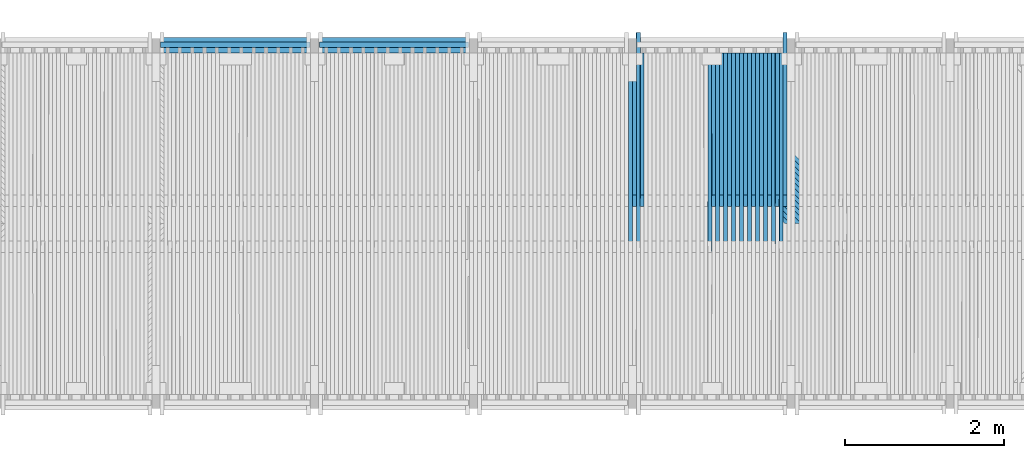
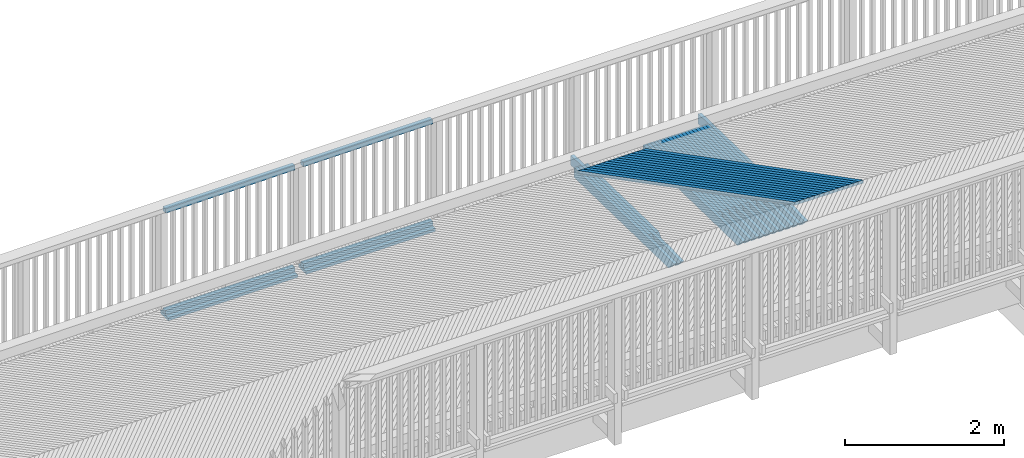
# One storey, part 35 of 52: 44 beams.
"""IFC2X3 building model written with IfcOpenShell, lengths in millimetres."""

from ifc_helpers import new_model, si_unit, frame, origin_with_axes, place, context, subcontext, project, spatial, faceted_brep, material, type_object, element, save


model = new_model("IFC2X3")

# Units and contexts
model_context = context("Model", 3, precision=1e-05, world=origin_with_axes())
body_context = subcontext(model_context, "Body", "Model", "MODEL_VIEW")
ifc_project = project(units=[si_unit("LENGTHUNIT", "METRE", prefix="MILLI"), si_unit("AREAUNIT", "SQUARE_METRE"), si_unit("VOLUMEUNIT", "CUBIC_METRE"), si_unit("MASSUNIT", "GRAM", prefix="KILO"), si_unit("TIMEUNIT", "SECOND"), si_unit("PLANEANGLEUNIT", "RADIAN"), si_unit("SOLIDANGLEUNIT", "STERADIAN"), si_unit("THERMODYNAMICTEMPERATUREUNIT", "DEGREE_CELSIUS"), si_unit("LUMINOUSINTENSITYUNIT", "LUMEN")], contexts=[model_context])

# Site, building, storey
site_placement = place(None, origin_with_axes())
site = spatial("IfcSite", under=ifc_project, at=site_placement, Name="Undefined", CompositionType="ELEMENT")
building_placement = place(site_placement, origin_with_axes())
building = spatial("IfcBuilding", under=site, at=building_placement, Name="Undefined", CompositionType="ELEMENT")
storey_placement = place(building_placement, origin_with_axes())
storey = spatial("IfcBuildingStorey", under=building, at=storey_placement, Name="Undefined", CompositionType="ELEMENT", Elevation=0.0)

# Beams
ifc_material = material(Name="TIMBER/Timber_Undefined")
beam_type_1 = type_object("IfcBeamType", Name="70*70", PredefinedType="NOTDEFINED")
beam_1_placement = place(storey_placement, frame((6060.06112513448, 4619.98998541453, 2964.99442729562), z_axis=(0.0, 1.0, 0.0), x_axis=(0.999998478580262, 0.0, 0.0017443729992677)))
element("IfcBeam", 1, at=beam_1_placement, inside=storey, type_object=beam_type_1, material=ifc_material, Name="BEAM", ObjectType="70*70", context=body_context, shape_type="Brep", body=[
    faceted_brep([(-3.63797880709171e-12, 35.0000000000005, -35.0), (-3.63797880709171e-12, 35.0000000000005, 35.0), (1880.00289069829, 35.0, 35.0), (1880.00289069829, 35.0, -35.0), (-3.63797880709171e-12, -34.9999999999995, 35.0), (1880.00289069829, -35.0000000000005, 35.0), (-3.63797880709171e-12, -34.9999999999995, -35.0), (1880.00289069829, -35.0000000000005, -35.0)], [[[0, 1, 2, 3]], [[1, 4, 5, 2]], [[4, 6, 7, 5]], [[6, 0, 3, 7]], [[5, 7, 3, 2]], [[6, 4, 1, 0]]]),
])
beam_2_placement = place(storey_placement, frame((4060.18309001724, 4619.99006849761, 2952.37669081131), z_axis=(0.0, 1.0, 0.0), x_axis=(0.999986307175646, 0.0, 0.00523311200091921)))
element("IfcBeam", 2, at=beam_2_placement, inside=storey, type_object=beam_type_1, material=ifc_material, Name="BEAM", ObjectType="70*70", context=body_context, shape_type="Brep", body=[
    faceted_brep([(-3.63797880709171e-12, 35.0000000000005, -35.0), (-3.63797880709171e-12, 35.0000000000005, 35.0), (1880.02601672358, 34.9999999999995, 35.0), (1880.02601672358, 34.9999999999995, -35.0), (-3.63797880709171e-12, -34.9999999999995, 35.0), (1880.02601672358, -35.0000000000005, 35.0), (-3.63797880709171e-12, -34.9999999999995, -35.0), (1880.02601672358, -35.0000000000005, -35.0)], [[[0, 1, 2, 3]], [[1, 4, 5, 2]], [[4, 6, 7, 5]], [[6, 0, 3, 7]], [[5, 7, 3, 2]], [[6, 4, 1, 0]]]),
])
beam_3_placement = place(storey_placement, frame((6060.06112513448, 4619.98998541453, 4524.99442729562), z_axis=(0.0, 1.0, 0.0), x_axis=(0.999998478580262, 0.0, 0.0017443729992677)))
element("IfcBeam", 3, at=beam_3_placement, inside=storey, type_object=beam_type_1, material=ifc_material, Name="BEAM", ObjectType="70*70", context=body_context, shape_type="Brep", body=[
    faceted_brep([(-3.63797880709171e-12, 35.0000000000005, -35.0), (-3.63797880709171e-12, 35.0000000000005, 35.0), (1880.00289069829, 35.0, 35.0), (1880.00289069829, 35.0, -35.0), (-3.63797880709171e-12, -34.9999999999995, 35.0), (1880.00289069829, -35.0000000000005, 35.0), (-3.63797880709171e-12, -34.9999999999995, -35.0), (1880.00289069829, -35.0000000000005, -35.0)], [[[0, 1, 2, 3]], [[1, 4, 5, 2]], [[4, 6, 7, 5]], [[6, 0, 3, 7]], [[5, 7, 3, 2]], [[6, 4, 1, 0]]]),
])
beam_4_placement = place(storey_placement, frame((4060.18309001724, 4619.99006849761, 4512.3766908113), z_axis=(0.0, 1.0, 0.0), x_axis=(0.999986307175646, 0.0, 0.00523311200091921)))
element("IfcBeam", 4, at=beam_4_placement, inside=storey, type_object=beam_type_1, material=ifc_material, Name="BEAM", ObjectType="70*70", context=body_context, shape_type="Brep", body=[
    faceted_brep([(-3.63797880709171e-12, 35.0000000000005, -35.0), (-3.63797880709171e-12, 35.0000000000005, 35.0), (1880.02601672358, 34.9999999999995, 35.0), (1880.02601672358, 34.9999999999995, -35.0), (-3.63797880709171e-12, -34.9999999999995, 35.0), (1880.02601672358, -35.0000000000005, 35.0), (-3.63797880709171e-12, -34.9999999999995, -35.0), (1880.02601672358, -35.0000000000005, -35.0)], [[[0, 1, 2, 3]], [[1, 4, 5, 2]], [[4, 6, 7, 5]], [[6, 0, 3, 7]], [[5, 7, 3, 2]], [[6, 4, 1, 0]]]),
])
beam_type_2 = type_object("IfcBeamType", Name="50*50", PredefinedType="NOTDEFINED")
for number, where, z_axis, x_axis, name in (
    (5, (12874.2769605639, 2365.49989967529, 3216.39230435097), (0.706987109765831, 0.706981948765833, -0.0185943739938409), (-0.707198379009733, 0.70694885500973, -0.0096834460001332), "BEAM"),
    (6, (12803.5550110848, 2365.49989967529, 3216.96068661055), (0.706989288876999, 0.706981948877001, -0.0185113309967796), (-0.707197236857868, 0.706948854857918, -0.0097665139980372), "BEAM"),
    (7, (12732.832995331, 2365.49989967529, 3217.52076181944), (0.706991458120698, 0.706981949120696, -0.0184282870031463), (-0.707196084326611, 0.706948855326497, -0.00984958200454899), "BEAM"),
    (8, (12662.1109142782, 2365.49989967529, 3218.07252996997), (0.706993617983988, 0.706981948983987, -0.0183452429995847), (-0.707194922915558, 0.706948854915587, -0.00993264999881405), "BEAM"),
    (9, (12591.3887689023, 2365.49989967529, 3218.61599105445), (0.706995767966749, 0.706981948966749, -0.0182621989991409), (-0.707193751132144, 0.706948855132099, -0.0100157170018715), "BEAM"),
    (10, (12520.666560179, 2365.49989967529, 3219.15114506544), (0.706997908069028, 0.706981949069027, -0.0181791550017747), (-0.707192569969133, 0.706948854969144, -0.0100987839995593), "BEAM"),
    (11, (12449.944289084, 2365.49989967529, 3219.67799199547), (0.707000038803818, 0.706981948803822, -0.0180961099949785), (-0.707191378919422, 0.706948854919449, -0.0101818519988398), "BEAM"),
    (12, (12379.2219565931, 2365.49989967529, 3220.19653183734), (0.707002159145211, 0.706981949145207, -0.0180130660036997), (-0.707190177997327, 0.706948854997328, -0.0102649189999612), "BEAM"),
    (13, (12308.499563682, 2365.49989967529, 3220.70676458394), (0.70700427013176, 0.706981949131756, -0.0179300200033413), (-0.707188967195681, 0.706948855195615, -0.0103479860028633), "BEAM"),
    (14, (12237.7771113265, 2365.49989967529, 3221.20869022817), (0.707006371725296, 0.706981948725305, -0.0178469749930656), (-0.707187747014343, 0.706948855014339, -0.0104310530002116), "BEAM"),
    (15, (12167.0546005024, 2365.49989967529, 3221.70230876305), (0.707008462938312, 0.706981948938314, -0.0177639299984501), (-0.70718651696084, 0.706948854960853, -0.0105141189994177), "BEAM"),
    (16, (12096.3320321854, 2365.49989967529, 3222.18762018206), (0.707010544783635, 0.706981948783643, -0.017680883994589), (-0.707185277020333, 0.706948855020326, -0.0105971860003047), "BEAM"),
    (17, (12025.6094073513, 2365.49989967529, 3222.66462447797), (0.707012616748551, 0.706981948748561, -0.0175978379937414), (-0.707184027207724, 0.706948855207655, -0.0106802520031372), "BEAM"),
    (18, (11954.8867269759, 2365.49989967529, 3223.13332164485), (0.707014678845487, 0.706981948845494, -0.0175147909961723), (-0.707182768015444, 0.706948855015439, -0.0107633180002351), "BEAM"),
):
    element("IfcBeam", number, at=place(storey_placement, frame(where, z_axis=z_axis, x_axis=x_axis)), inside=storey, type_object=beam_type_2, material=ifc_material, Name=name, ObjectType="50*50", context=body_context, shape_type="Brep", body=[
        faceted_brep([(23.5869248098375, 25.0, -25.0000000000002), (-26.4154158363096, 25.0000000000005, 24.9999999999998), (2802.92643296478, 25.0, 24.9999999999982), (2852.92877373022, 25.0000000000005, -25.0), (-25.0011704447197, -25.0, 24.9999999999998), (2804.3406783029, -25.0000000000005, 24.9999999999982), (25.0011701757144, -25.0, -25.0), (2854.34301907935, -24.9999999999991, -25.0)], [[[0, 1, 2, 3]], [[1, 4, 5, 2]], [[4, 6, 7, 5]], [[6, 0, 3, 7]], [[5, 7, 3, 2]], [[6, 4, 1, 0]]]),
    ])
beam_type_3 = type_object("IfcBeamType", Name="195*45", PredefinedType="NOTDEFINED")
for number, where, z_axis, x_axis, name in (
    (19, (6059.30513936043, 4612.48998541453, 2907.50226895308), (0.0, 1.0, 0.0), (0.999998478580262, 0.0, 0.0017443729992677), "BEAM"),
    (20, (4059.62768489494, 4612.49006849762, 2894.88224489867), (0.0, 1.0, 0.0), (0.999986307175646, 0.0, 0.00523311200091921), "BEAM"),
):
    element("IfcBeam", number, at=place(storey_placement, frame(where, z_axis=z_axis, x_axis=x_axis)), inside=storey, type_object=beam_type_3, material=ifc_material, Name=name, ObjectType="195*45", context=body_context, shape_type="Brep", body=[
        faceted_brep([(3.63797880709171e-12, 22.4999999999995, -97.5), (3.63797880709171e-12, 22.4999999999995, 97.5), (1880.22135781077, 22.4999999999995, 97.5), (1880.22135781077, 22.4999999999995, -97.5), (1.81898940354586e-12, -22.5000000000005, 97.5), (1880.22135781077, -22.5000000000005, 97.5), (1.81898940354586e-12, -22.5000000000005, -97.5), (1880.22135781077, -22.5000000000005, -97.5)], [[[0, 1, 2, 3]], [[1, 4, 5, 2]], [[4, 6, 7, 5]], [[6, 0, 3, 7]], [[5, 7, 3, 2]], [[6, 4, 1, 0]]]),
    ])
beam_type_4 = type_object("IfcBeamType", Name="150*50", PredefinedType="NOTDEFINED")
for number, where, z_axis, x_axis, name in (
    (21, (11875.3256007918, 4513.4953923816, 3080.67367306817), (0.0063570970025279, 0.0199960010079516, 0.999779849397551), (0.000127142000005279, -0.99980006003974, 0.0199955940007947), "BEAM"),
    (22, (11775.3075869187, 4513.4953923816, 3081.30926986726), (0.00619097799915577, 0.0199960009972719, 0.999780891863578), (0.000123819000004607, -0.999800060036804, 0.0199956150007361), "BEAM"),
):
    element("IfcBeam", number, at=place(storey_placement, frame(where, z_axis=z_axis, x_axis=x_axis)), inside=storey, type_object=beam_type_4, material=ifc_material, Name=name, ObjectType="150*50", context=body_context, shape_type="Brep", body=[
        faceted_brep([(-1.67788130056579e-07, -24.9999999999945, -74.9999999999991), (-1.67787220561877e-07, 25.0000000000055, -75.0), (2375.00494422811, 25.0000000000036, -74.9999999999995), (2375.0049444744, -24.9999999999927, -74.9999999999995), (1.67786311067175e-07, -24.9999999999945, 75.0000000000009), (1.67786311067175e-07, 25.0000000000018, 75.0), (2150.42515052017, 25.0000000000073, 75.0), (2510.59248715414, 25.0000000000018, 60.5875433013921), (2510.5924871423, -24.9999999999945, 60.5875430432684), (2150.42514405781, -24.9999999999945, 75.0000000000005)], [[[0, 1, 2, 3]], [[0, 4, 5, 1]], [[2, 1, 5, 6, 7]], [[3, 2, 7, 8]], [[4, 0, 3, 8, 9]], [[5, 4, 9, 6]], [[8, 7, 6, 9]]]),
    ])
beam_5_placement = place(storey_placement, frame((11825.3266087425, 4513.49539238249, 3080.99122584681), z_axis=(0.0063570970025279, 0.0199960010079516, 0.999779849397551), x_axis=(0.000127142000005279, -0.99980006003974, 0.0199955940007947)))
element("IfcBeam", 23, at=beam_5_placement, inside=storey, type_object=beam_type_4, material=ifc_material, Name="BEAM", ObjectType="150*50", context=body_context, shape_type="Brep", body=[
    faceted_brep([(-1.67788130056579e-07, -24.9999999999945, -74.9999999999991), (1.67786311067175e-07, -24.9999999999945, 75.0000000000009), (1.67786311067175e-07, 25.0000000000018, 75.0), (-1.67787220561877e-07, 25.0000000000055, -75.0), (1789.96936408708, 24.9999999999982, 75.0000000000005), (1928.42646328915, 24.9999999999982, -74.9999999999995), (1928.42646353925, -25.0, -75.0), (1789.96936433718, -25.0000000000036, 74.9999999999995)], [[[0, 1, 2, 3]], [[3, 2, 4, 5]], [[0, 3, 5, 6]], [[1, 0, 6, 7]], [[2, 1, 7, 4]], [[5, 4, 7, 6]]]),
])
beam_6_placement = place(storey_placement, frame((11675.2894688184, 4513.4953923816, 3081.92824813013), z_axis=(0.00602485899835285, 0.0199960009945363, 0.9997819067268), x_axis=(0.000120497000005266, -0.9998000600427, 0.019995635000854)))
element("IfcBeam", 24, at=beam_6_placement, inside=storey, type_object=beam_type_4, material=ifc_material, Name="BEAM", ObjectType="150*50", context=body_context, shape_type="Brep", body=[
    faceted_brep([(-1.67788130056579e-07, -24.9999999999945, -74.9999999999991), (-1.67787220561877e-07, 25.0000000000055, -75.0), (2375.00494422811, 25.0000000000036, -74.9999999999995), (2375.0049444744, -24.9999999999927, -74.9999999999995), (1.67786311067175e-07, -24.9999999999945, 75.0000000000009), (1.67786311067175e-07, 25.0000000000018, 75.0), (2150.42515052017, 25.0000000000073, 75.0), (2510.59248715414, 25.0000000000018, 60.5875433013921), (2510.5924871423, -24.9999999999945, 60.5875430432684), (2150.42514405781, -24.9999999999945, 75.0000000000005)], [[[0, 1, 2, 3]], [[0, 4, 5, 1]], [[2, 1, 5, 6, 7]], [[3, 2, 7, 8]], [[4, 0, 3, 8, 9]], [[5, 4, 9, 6]], [[8, 7, 6, 9]]]),
])
beam_7_placement = place(storey_placement, frame((11725.3085427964, 4513.49539238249, 3081.61851504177), z_axis=(0.00619097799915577, 0.0199960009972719, 0.999780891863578), x_axis=(0.000123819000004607, -0.999800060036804, 0.0199956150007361)))
element("IfcBeam", 25, at=beam_7_placement, inside=storey, type_object=beam_type_4, material=ifc_material, Name="BEAM", ObjectType="150*50", context=body_context, shape_type="Brep", body=[
    faceted_brep([(-1.67788130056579e-07, -24.9999999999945, -74.9999999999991), (1.67786311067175e-07, -24.9999999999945, 75.0000000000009), (1.67786311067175e-07, 25.0000000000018, 75.0), (-1.67787220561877e-07, 25.0000000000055, -75.0), (1789.96936408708, 24.9999999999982, 75.0000000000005), (1928.42646328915, 24.9999999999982, -74.9999999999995), (1928.42646353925, -25.0, -75.0), (1789.96936433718, -25.0000000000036, 74.9999999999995)], [[[0, 1, 2, 3]], [[3, 2, 4, 5]], [[0, 3, 5, 6]], [[1, 0, 6, 7]], [[2, 1, 7, 4]], [[5, 4, 7, 6]]]),
])
beam_8_placement = place(storey_placement, frame((11575.2712492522, 4513.4953923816, 3082.53060783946), z_axis=(0.00585873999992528, 0.0199960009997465, 0.999782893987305), x_axis=(0.000117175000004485, -0.999800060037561, 0.0199956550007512)))
element("IfcBeam", 26, at=beam_8_placement, inside=storey, type_object=beam_type_4, material=ifc_material, Name="BEAM", ObjectType="150*50", context=body_context, shape_type="Brep", body=[
    faceted_brep([(-1.67788130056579e-07, -24.9999999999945, -74.9999999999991), (-1.67787220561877e-07, 25.0000000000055, -75.0), (2375.00494422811, 25.0000000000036, -74.9999999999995), (2375.0049444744, -24.9999999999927, -74.9999999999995), (1.67786311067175e-07, -24.9999999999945, 75.0000000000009), (1.67786311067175e-07, 25.0000000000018, 75.0), (2150.42515052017, 25.0000000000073, 75.0), (2510.59248715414, 25.0000000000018, 60.5875433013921), (2510.5924871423, -24.9999999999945, 60.5875430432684), (2150.42514405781, -24.9999999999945, 75.0000000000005)], [[[0, 1, 2, 3]], [[0, 4, 5, 1]], [[2, 1, 5, 6, 7]], [[3, 2, 7, 8]], [[4, 0, 3, 8, 9]], [[5, 4, 9, 6]], [[8, 7, 6, 9]]]),
])
beam_9_placement = place(storey_placement, frame((11625.2903740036, 4513.49539238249, 3082.22918569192), z_axis=(0.00602485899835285, 0.0199960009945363, 0.9997819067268), x_axis=(0.000120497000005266, -0.9998000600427, 0.019995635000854)))
element("IfcBeam", 27, at=beam_9_placement, inside=storey, type_object=beam_type_4, material=ifc_material, Name="BEAM", ObjectType="150*50", context=body_context, shape_type="Brep", body=[
    faceted_brep([(-1.67788130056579e-07, -24.9999999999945, -74.9999999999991), (1.67786311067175e-07, -24.9999999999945, 75.0000000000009), (1.67786311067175e-07, 25.0000000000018, 75.0), (-1.67787220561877e-07, 25.0000000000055, -75.0), (1789.96936408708, 24.9999999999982, 75.0000000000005), (1928.42646328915, 24.9999999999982, -74.9999999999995), (1928.42646353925, -25.0, -75.0), (1789.96936433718, -25.0000000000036, 74.9999999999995)], [[[0, 1, 2, 3]], [[3, 2, 4, 5]], [[0, 3, 5, 6]], [[1, 0, 6, 7]], [[2, 1, 7, 4]], [[5, 4, 7, 6]]]),
])
beam_10_placement = place(storey_placement, frame((11475.2529309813, 4513.4953923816, 3083.11634897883), z_axis=(0.00569262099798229, 0.0199960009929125, 0.999783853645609), x_axis=(0.000113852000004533, -0.999800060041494, 0.0199956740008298)))
element("IfcBeam", 28, at=beam_10_placement, inside=storey, type_object=beam_type_4, material=ifc_material, Name="BEAM", ObjectType="150*50", context=body_context, shape_type="Brep", body=[
    faceted_brep([(-1.67788130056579e-07, -24.9999999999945, -74.9999999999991), (-1.67787220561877e-07, 25.0000000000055, -75.0), (2375.00494422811, 25.0000000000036, -74.9999999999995), (2375.0049444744, -24.9999999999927, -74.9999999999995), (1.67786311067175e-07, -24.9999999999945, 75.0000000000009), (1.67786311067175e-07, 25.0000000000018, 75.0), (2150.42515052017, 25.0000000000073, 75.0), (2510.59248715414, 25.0000000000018, 60.5875433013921), (2510.5924871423, -24.9999999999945, 60.5875430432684), (2150.42514405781, -24.9999999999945, 75.0000000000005)], [[[0, 1, 2, 3]], [[0, 4, 5, 1]], [[2, 1, 5, 6, 7]], [[3, 2, 7, 8]], [[4, 0, 3, 8, 9]], [[5, 4, 9, 6]], [[8, 7, 6, 9]]]),
])
beam_11_placement = place(storey_placement, frame((11525.2721051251, 4513.49539238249, 3082.82323778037), z_axis=(0.00585873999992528, 0.0199960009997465, 0.999782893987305), x_axis=(0.000117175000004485, -0.999800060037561, 0.0199956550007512)))
element("IfcBeam", 29, at=beam_11_placement, inside=storey, type_object=beam_type_4, material=ifc_material, Name="BEAM", ObjectType="150*50", context=body_context, shape_type="Brep", body=[
    faceted_brep([(-1.67788130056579e-07, -24.9999999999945, -74.9999999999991), (1.67786311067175e-07, -24.9999999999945, 75.0000000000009), (1.67786311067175e-07, 25.0000000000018, 75.0), (-1.67787220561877e-07, 25.0000000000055, -75.0), (1789.96936408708, 24.9999999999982, 75.0000000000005), (1928.42646328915, 24.9999999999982, -74.9999999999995), (1928.42646353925, -25.0, -75.0), (1789.96936433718, -25.0000000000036, 74.9999999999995)], [[[0, 1, 2, 3]], [[3, 2, 4, 5]], [[0, 3, 5, 6]], [[1, 0, 6, 7]], [[2, 1, 7, 4]], [[5, 4, 7, 6]]]),
])
beam_12_placement = place(storey_placement, frame((11375.234516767, 4513.4953923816, 3083.68547153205), z_axis=(0.00552650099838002, 0.019996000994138, 0.999784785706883), x_axis=(0.000110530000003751, -0.999800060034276, 0.0199956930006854)))
element("IfcBeam", 30, at=beam_12_placement, inside=storey, type_object=beam_type_4, material=ifc_material, Name="BEAM", ObjectType="150*50", context=body_context, shape_type="Brep", body=[
    faceted_brep([(-1.67788130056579e-07, -24.9999999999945, -74.9999999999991), (-1.67787220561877e-07, 25.0000000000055, -75.0), (2375.00494422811, 25.0000000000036, -74.9999999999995), (2375.0049444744, -24.9999999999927, -74.9999999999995), (1.67786311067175e-07, -24.9999999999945, 75.0000000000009), (1.67786311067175e-07, 25.0000000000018, 75.0), (2150.42515052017, 25.0000000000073, 75.0), (2510.59248715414, 25.0000000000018, 60.5875433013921), (2510.5924871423, -24.9999999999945, 60.5875430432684), (2150.42514405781, -24.9999999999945, 75.0000000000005)], [[[0, 1, 2, 3]], [[0, 4, 5, 1]], [[2, 1, 5, 6, 7]], [[3, 2, 7, 8]], [[4, 0, 3, 8, 9]], [[5, 4, 9, 6]], [[8, 7, 6, 9]]]),
])
beam_13_placement = place(storey_placement, frame((11425.2537389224, 4513.49539238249, 3083.4006712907), z_axis=(0.00569262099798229, 0.0199960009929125, 0.999783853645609), x_axis=(0.000113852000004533, -0.999800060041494, 0.0199956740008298)))
element("IfcBeam", 31, at=beam_13_placement, inside=storey, type_object=beam_type_4, material=ifc_material, Name="BEAM", ObjectType="150*50", context=body_context, shape_type="Brep", body=[
    faceted_brep([(-1.67788130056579e-07, -24.9999999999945, -74.9999999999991), (1.67786311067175e-07, -24.9999999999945, 75.0000000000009), (1.67786311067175e-07, 25.0000000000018, 75.0), (-1.67787220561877e-07, 25.0000000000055, -75.0), (1789.96936408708, 24.9999999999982, 75.0000000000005), (1928.42646328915, 24.9999999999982, -74.9999999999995), (1928.42646353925, -25.0, -75.0), (1789.96936433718, -25.0000000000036, 74.9999999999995)], [[[0, 1, 2, 3]], [[3, 2, 4, 5]], [[0, 3, 5, 6]], [[1, 0, 6, 7]], [[2, 1, 7, 4]], [[5, 4, 7, 6]]]),
])
beam_14_placement = place(storey_placement, frame((11275.2160093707, 4513.4953923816, 3084.23797548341), z_axis=(0.00536038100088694, 0.0199960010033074, 0.999785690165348), x_axis=(0.000107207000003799, -0.999800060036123, 0.0199957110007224)))
element("IfcBeam", 32, at=beam_14_placement, inside=storey, type_object=beam_type_4, material=ifc_material, Name="BEAM", ObjectType="150*50", context=body_context, shape_type="Brep", body=[
    faceted_brep([(-1.67788130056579e-07, -24.9999999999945, -74.9999999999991), (-1.67787220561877e-07, 25.0000000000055, -75.0), (2375.00494422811, 25.0000000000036, -74.9999999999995), (2375.0049444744, -24.9999999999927, -74.9999999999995), (1.67786311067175e-07, -24.9999999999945, 75.0000000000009), (1.67786311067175e-07, 25.0000000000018, 75.0), (2150.42515052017, 25.0000000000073, 75.0), (2510.59248715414, 25.0000000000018, 60.5875433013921), (2510.5924871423, -24.9999999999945, 60.5875430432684), (2150.42514405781, -24.9999999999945, 75.0000000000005)], [[[0, 1, 2, 3]], [[0, 4, 5, 1]], [[2, 1, 5, 6, 7]], [[3, 2, 7, 8]], [[4, 0, 3, 8, 9]], [[5, 4, 9, 6]], [[8, 7, 6, 9]]]),
])
beam_15_placement = place(storey_placement, frame((11325.2352781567, 4513.49539238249, 3083.96148620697), z_axis=(0.00552650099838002, 0.019996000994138, 0.999784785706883), x_axis=(0.000110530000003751, -0.999800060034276, 0.0199956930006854)))
element("IfcBeam", 33, at=beam_15_placement, inside=storey, type_object=beam_type_4, material=ifc_material, Name="BEAM", ObjectType="150*50", context=body_context, shape_type="Brep", body=[
    faceted_brep([(-1.67788130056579e-07, -24.9999999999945, -74.9999999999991), (1.67786311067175e-07, -24.9999999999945, 75.0000000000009), (1.67786311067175e-07, 25.0000000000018, 75.0), (-1.67787220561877e-07, 25.0000000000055, -75.0), (1789.96936408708, 24.9999999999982, 75.0000000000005), (1928.42646328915, 24.9999999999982, -74.9999999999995), (1928.42646353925, -25.0, -75.0), (1789.96936433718, -25.0000000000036, 74.9999999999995)], [[[0, 1, 2, 3]], [[3, 2, 4, 5]], [[0, 3, 5, 6]], [[1, 0, 6, 7]], [[2, 1, 7, 4]], [[5, 4, 7, 6]]]),
])
beam_16_placement = place(storey_placement, frame((11175.1974115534, 4513.4953923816, 3084.77386081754), z_axis=(0.00519426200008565, 0.0199960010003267, 0.999786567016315), x_axis=(0.000103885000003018, -0.999800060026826, 0.0199957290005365)))
element("IfcBeam", 34, at=beam_16_placement, inside=storey, type_object=beam_type_4, material=ifc_material, Name="BEAM", ObjectType="150*50", context=body_context, shape_type="Brep", body=[
    faceted_brep([(-1.67788130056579e-07, -24.9999999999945, -74.9999999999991), (-1.67787220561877e-07, 25.0000000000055, -75.0), (2375.00494422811, 25.0000000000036, -74.9999999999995), (2375.0049444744, -24.9999999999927, -74.9999999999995), (1.67786311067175e-07, -24.9999999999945, 75.0000000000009), (1.67786311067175e-07, 25.0000000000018, 75.0), (2150.42515052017, 25.0000000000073, 75.0), (2510.59248715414, 25.0000000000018, 60.5875433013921), (2510.5924871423, -24.9999999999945, 60.5875430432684), (2150.42514405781, -24.9999999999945, 75.0000000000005)], [[[0, 1, 2, 3]], [[0, 4, 5, 1]], [[2, 1, 5, 6, 7]], [[3, 2, 7, 8]], [[4, 0, 3, 8, 9]], [[5, 4, 9, 6]], [[8, 7, 6, 9]]]),
])
beam_17_placement = place(storey_placement, frame((11225.2167255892, 4513.49539238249, 3084.50568251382), z_axis=(0.00536038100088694, 0.0199960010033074, 0.999785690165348), x_axis=(0.000107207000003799, -0.999800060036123, 0.0199957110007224)))
element("IfcBeam", 35, at=beam_17_placement, inside=storey, type_object=beam_type_4, material=ifc_material, Name="BEAM", ObjectType="150*50", context=body_context, shape_type="Brep", body=[
    faceted_brep([(-1.67788130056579e-07, -24.9999999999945, -74.9999999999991), (1.67786311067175e-07, -24.9999999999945, 75.0000000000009), (1.67786311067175e-07, 25.0000000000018, 75.0), (-1.67787220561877e-07, 25.0000000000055, -75.0), (1789.96936408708, 24.9999999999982, 75.0000000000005), (1928.42646328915, 24.9999999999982, -74.9999999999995), (1928.42646353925, -25.0, -75.0), (1789.96936433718, -25.0000000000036, 74.9999999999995)], [[[0, 1, 2, 3]], [[3, 2, 4, 5]], [[0, 3, 5, 6]], [[1, 0, 6, 7]], [[2, 1, 7, 4]], [[5, 4, 7, 6]]]),
])
beam_18_placement = place(storey_placement, frame((11075.1787260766, 4513.4953923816, 3085.29312751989), z_axis=(0.005028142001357, 0.0199960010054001, 0.999787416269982), x_axis=(0.000100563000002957, -0.999800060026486, 0.0199957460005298)))
element("IfcBeam", 36, at=beam_18_placement, inside=storey, type_object=beam_type_4, material=ifc_material, Name="BEAM", ObjectType="150*50", context=body_context, shape_type="Brep", body=[
    faceted_brep([(-1.67788130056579e-07, -24.9999999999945, -74.9999999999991), (-1.67787220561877e-07, 25.0000000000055, -75.0), (2375.00494422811, 25.0000000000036, -74.9999999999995), (2375.0049444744, -24.9999999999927, -74.9999999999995), (1.67786311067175e-07, -24.9999999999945, 75.0000000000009), (1.67786311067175e-07, 25.0000000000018, 75.0), (2150.42515052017, 25.0000000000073, 75.0), (2510.59248715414, 25.0000000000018, 60.5875433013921), (2510.5924871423, -24.9999999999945, 60.5875430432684), (2150.42514405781, -24.9999999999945, 75.0000000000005)], [[[0, 1, 2, 3]], [[0, 4, 5, 1]], [[2, 1, 5, 6, 7]], [[3, 2, 7, 8]], [[4, 0, 3, 8, 9]], [[5, 4, 9, 6]], [[8, 7, 6, 9]]]),
])
beam_19_placement = place(storey_placement, frame((11125.1980839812, 4513.49539238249, 3085.03326019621), z_axis=(0.00519426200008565, 0.0199960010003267, 0.999786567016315), x_axis=(0.000103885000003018, -0.999800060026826, 0.0199957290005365)))
element("IfcBeam", 37, at=beam_19_placement, inside=storey, type_object=beam_type_4, material=ifc_material, Name="BEAM", ObjectType="150*50", context=body_context, shape_type="Brep", body=[
    faceted_brep([(-1.67788130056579e-07, -24.9999999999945, -74.9999999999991), (1.67786311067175e-07, -24.9999999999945, 75.0000000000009), (1.67786311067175e-07, 25.0000000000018, 75.0), (-1.67787220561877e-07, 25.0000000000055, -75.0), (1789.96936408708, 24.9999999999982, 75.0000000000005), (1928.42646328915, 24.9999999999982, -74.9999999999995), (1928.42646353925, -25.0, -75.0), (1789.96936433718, -25.0000000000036, 74.9999999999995)], [[[0, 1, 2, 3]], [[3, 2, 4, 5]], [[0, 3, 5, 6]], [[1, 0, 6, 7]], [[2, 1, 7, 4]], [[5, 4, 7, 6]]]),
])
beam_20_placement = place(storey_placement, frame((10975.1599557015, 4513.4953923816, 3085.79577557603), z_axis=(0.00486202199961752, 0.0199960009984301, 0.999788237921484), x_axis=(9.72400000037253e-05, -0.999800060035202, 0.019995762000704)))
element("IfcBeam", 38, at=beam_20_placement, inside=storey, type_object=beam_type_4, material=ifc_material, Name="BEAM", ObjectType="150*50", context=body_context, shape_type="Brep", body=[
    faceted_brep([(-1.67788130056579e-07, -24.9999999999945, -74.9999999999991), (-1.67787220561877e-07, 25.0000000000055, -75.0), (2375.00494422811, 25.0000000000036, -74.9999999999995), (2375.0049444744, -24.9999999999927, -74.9999999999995), (1.67786311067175e-07, -24.9999999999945, 75.0000000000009), (1.67786311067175e-07, 25.0000000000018, 75.0), (2150.42515052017, 25.0000000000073, 75.0), (2510.59248715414, 25.0000000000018, 60.5875433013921), (2510.5924871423, -24.9999999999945, 60.5875430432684), (2150.42514405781, -24.9999999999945, 75.0000000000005)], [[[0, 1, 2, 3]], [[0, 4, 5, 1]], [[2, 1, 5, 6, 7]], [[3, 2, 7, 8]], [[4, 0, 3, 8, 9]], [[5, 4, 9, 6]], [[8, 7, 6, 9]]]),
])
for number, where, z_axis, x_axis, name in (
    (39, (11025.179356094, 4513.49539238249, 3085.5442192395), (0.005028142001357, 0.0199960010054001, 0.999787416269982), (0.000100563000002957, -0.999800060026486, 0.0199957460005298), "BEAM"),
    (40, (10125.0073781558, 4513.49539238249, 3089.39500969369), (0.00353305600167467, 0.0199960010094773, 0.999793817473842), (7.06610000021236e-05, -0.999800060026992, 0.0199958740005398), "BEAM"),
):
    element("IfcBeam", number, at=place(storey_placement, frame(where, z_axis=z_axis, x_axis=x_axis)), inside=storey, type_object=beam_type_4, material=ifc_material, Name=name, ObjectType="150*50", context=body_context, shape_type="Brep", body=[
        faceted_brep([(-1.67788130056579e-07, -24.9999999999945, -74.9999999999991), (1.67786311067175e-07, -24.9999999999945, 75.0000000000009), (1.67786311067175e-07, 25.0000000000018, 75.0), (-1.67787220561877e-07, 25.0000000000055, -75.0), (1789.96936408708, 24.9999999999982, 75.0000000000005), (1928.42646328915, 24.9999999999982, -74.9999999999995), (1928.42646353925, -25.0, -75.0), (1789.96936433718, -25.0000000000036, 74.9999999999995)], [[[0, 1, 2, 3]], [[3, 2, 4, 5]], [[0, 3, 5, 6]], [[1, 0, 6, 7]], [[2, 1, 7, 4]], [[5, 4, 7, 6]]]),
    ])
beam_21_placement = place(storey_placement, frame((9974.96819002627, 4513.4953923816, 3089.90822776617), z_axis=(0.00320081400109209, 0.0199960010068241, 0.999794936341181), x_axis=(6.40160000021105e-05, -0.999800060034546, 0.0199958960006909)))
element("IfcBeam", 41, at=beam_21_placement, inside=storey, type_object=beam_type_4, material=ifc_material, Name="BEAM", ObjectType="150*50", context=body_context, shape_type="Brep", body=[
    faceted_brep([(-1.67788130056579e-07, -24.9999999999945, -74.9999999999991), (-1.67787220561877e-07, 25.0000000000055, -75.0), (2375.00494422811, 25.0000000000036, -74.9999999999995), (2375.0049444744, -24.9999999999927, -74.9999999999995), (1.67786311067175e-07, -24.9999999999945, 75.0000000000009), (1.67786311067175e-07, 25.0000000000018, 75.0), (2150.42515052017, 25.0000000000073, 75.0), (2510.59248715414, 25.0000000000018, 60.5875433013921), (2510.5924871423, -24.9999999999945, 60.5875430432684), (2150.42514405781, -24.9999999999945, 75.0000000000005)], [[[0, 1, 2, 3]], [[0, 4, 5, 1]], [[2, 1, 5, 6, 7]], [[3, 2, 7, 8]], [[4, 0, 3, 8, 9]], [[5, 4, 9, 6]], [[8, 7, 6, 9]]]),
])
beam_22_placement = place(storey_placement, frame((10024.987939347, 4513.49539238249, 3089.73978164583), z_axis=(0.00336693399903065, 0.0199960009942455, 0.999794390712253), x_axis=(6.73390000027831e-05, -0.999800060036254, 0.0199958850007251)))
element("IfcBeam", 42, at=beam_22_placement, inside=storey, type_object=beam_type_4, material=ifc_material, Name="BEAM", ObjectType="150*50", context=body_context, shape_type="Brep", body=[
    faceted_brep([(-1.67788130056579e-07, -24.9999999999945, -74.9999999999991), (1.67786311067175e-07, -24.9999999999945, 75.0000000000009), (1.67786311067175e-07, 25.0000000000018, 75.0), (-1.67787220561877e-07, 25.0000000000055, -75.0), (1789.96936408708, 24.9999999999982, 75.0000000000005), (1928.42646328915, 24.9999999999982, -74.9999999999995), (1928.42646353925, -25.0, -75.0), (1789.96936433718, -25.0000000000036, 74.9999999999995)], [[[0, 1, 2, 3]], [[3, 2, 4, 5]], [[0, 3, 5, 6]], [[1, 0, 6, 7]], [[2, 1, 7, 4]], [[5, 4, 7, 6]]]),
])
beam_23_placement = place(storey_placement, frame((11924.879680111, 4771.44380785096, 3075.18895562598), z_axis=(0.0065221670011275, 0.0199960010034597, 0.999778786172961), x_axis=(0.000130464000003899, -0.999800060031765, 0.0199955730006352)))
element("IfcBeam", 43, at=beam_23_placement, inside=storey, type_object=beam_type_4, material=ifc_material, Name="BEAM", ObjectType="150*50", context=body_context, shape_type="Brep", body=[
    faceted_brep([(-1.67788130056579e-07, -24.9999999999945, -74.9999999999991), (1.67786311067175e-07, -24.9999999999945, 75.0000000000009), (1.67786311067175e-07, 25.0000000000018, 75.0), (-1.67787220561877e-07, 25.0000000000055, -75.0), (2047.9693678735, 25.0, 75.0), (2186.42646676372, 24.9999999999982, -75.0), (2186.42645144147, -25.0, -75.0), (2047.96935255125, -25.0, 75.0)], [[[0, 1, 2, 3]], [[3, 2, 4, 5]], [[0, 3, 5, 6]], [[1, 0, 6, 7]], [[2, 1, 7, 4]], [[5, 4, 7, 6]]]),
])
beam_24_placement = place(storey_placement, frame((10075.0449693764, 4771.44380785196, 3084.41228108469), z_axis=(0.00336693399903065, 0.0199960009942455, 0.999794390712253), x_axis=(6.73390000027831e-05, -0.999800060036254, 0.0199958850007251)))
element("IfcBeam", 44, at=beam_24_placement, inside=storey, type_object=beam_type_4, material=ifc_material, Name="BEAM", ObjectType="150*50", context=body_context, shape_type="Brep", body=[
    faceted_brep([(-1.67788130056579e-07, -24.9999999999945, -74.9999999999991), (-1.67787220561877e-07, 25.0000000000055, -75.0), (2633.00494750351, 25.0, -74.9999999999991), (2633.00494763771, -25.0, -74.9999999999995), (1.67786311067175e-07, -24.9999999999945, 75.0000000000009), (1.67786311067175e-07, 25.0000000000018, 75.0), (2408.42506824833, 25.0, 75.0000000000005), (2768.59248710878, 24.9999999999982, 60.5875398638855), (2768.59248713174, -25.0, 60.5875397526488), (2408.42506549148, -25.0, 75.0000000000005)], [[[0, 1, 2, 3]], [[0, 4, 5, 1]], [[2, 1, 5, 6, 7]], [[3, 2, 7, 8]], [[4, 0, 3, 8, 9]], [[5, 4, 9, 6]], [[8, 7, 6, 9]]]),
])

save(model, "model.ifc")
